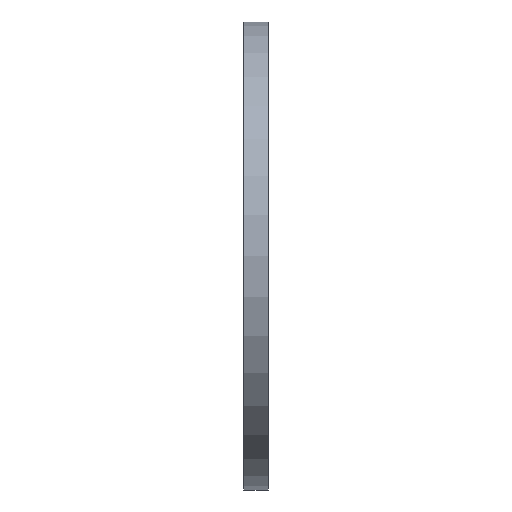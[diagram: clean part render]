
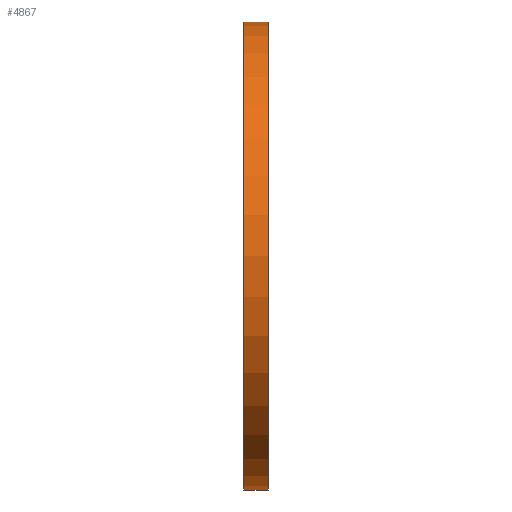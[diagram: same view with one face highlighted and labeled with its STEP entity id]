
A CAD part, left-side view. The second image highlights one B-rep face of the part: STEP entity #4867.
In plain terms, the highlighted cylindrical face has radius 114.4 mm (diameter 228.8 mm), a partial arc.
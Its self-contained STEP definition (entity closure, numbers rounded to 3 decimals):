
#744 = EDGE_CURVE ( 'NONE', #27836, #23290, #25648, .T. ) ;
#1474 = VERTEX_POINT ( 'NONE', #28947 ) ;
#4070 = CIRCLE ( 'NONE', #27026, 114.4 ) ;
#4628 = CARTESIAN_POINT ( 'NONE',  ( 0., 12., 0. ) ) ;
#4867 = ADVANCED_FACE ( 'NONE', ( #14982 ), #21432, .T. ) ;
#5109 = DIRECTION ( 'NONE',  ( 0., -1., 0. ) ) ;
#5386 = CARTESIAN_POINT ( 'NONE',  ( 0., 0., 0. ) ) ;
#6732 = DIRECTION ( 'NONE',  ( 0., -1., 0. ) ) ;
#6814 = CARTESIAN_POINT ( 'NONE',  ( 0., 12., -114.4 ) ) ;
#7298 = DIRECTION ( 'NONE',  ( 0., -1., 0. ) ) ;
#7593 = DIRECTION ( 'NONE',  ( 0., 0., -1. ) ) ;
#7628 = EDGE_LOOP ( 'NONE', ( #20357, #15282, #26963, #27538 ) ) ;
#8214 = CIRCLE ( 'NONE', #19700, 114.4 ) ;
#8457 = AXIS2_PLACEMENT_3D ( 'NONE', #5386, #21726, #14538 ) ;
#9131 = DIRECTION ( 'NONE',  ( 0., 0., -1. ) ) ;
#9466 = CARTESIAN_POINT ( 'NONE',  ( 0., 0., 114.4 ) ) ;
#11795 = CARTESIAN_POINT ( 'NONE',  ( 0., 0., 0. ) ) ;
#11824 = LINE ( 'NONE', #28131, #15474 ) ;
#13656 = VERTEX_POINT ( 'NONE', #6814 ) ;
#14505 = VECTOR ( 'NONE', #5109, 1000. ) ;
#14538 = DIRECTION ( 'NONE',  ( 0., 0., -1. ) ) ;
#14982 = FACE_OUTER_BOUND ( 'NONE', #7628, .T. ) ;
#15264 = EDGE_CURVE ( 'NONE', #13656, #1474, #11824, .T. ) ;
#15282 = ORIENTED_EDGE ( 'NONE', *, *, #18249, .T. ) ;
#15474 = VECTOR ( 'NONE', #16469, 1000. ) ;
#16469 = DIRECTION ( 'NONE',  ( 0., -1., 0. ) ) ;
#17693 = CARTESIAN_POINT ( 'NONE',  ( 0., 0., 114.4 ) ) ;
#18249 = EDGE_CURVE ( 'NONE', #27836, #13656, #8214, .T. ) ;
#19700 = AXIS2_PLACEMENT_3D ( 'NONE', #4628, #6732, #9131 ) ;
#20357 = ORIENTED_EDGE ( 'NONE', *, *, #744, .F. ) ;
#21432 = CYLINDRICAL_SURFACE ( 'NONE', #8457, 114.4 ) ;
#21726 = DIRECTION ( 'NONE',  ( 0., -1., 0. ) ) ;
#23253 = CARTESIAN_POINT ( 'NONE',  ( 0., 12., 114.4 ) ) ;
#23290 = VERTEX_POINT ( 'NONE', #17693 ) ;
#25648 = LINE ( 'NONE', #9466, #14505 ) ;
#26963 = ORIENTED_EDGE ( 'NONE', *, *, #15264, .T. ) ;
#27026 = AXIS2_PLACEMENT_3D ( 'NONE', #11795, #7298, #7593 ) ;
#27084 = EDGE_CURVE ( 'NONE', #23290, #1474, #4070, .T. ) ;
#27538 = ORIENTED_EDGE ( 'NONE', *, *, #27084, .F. ) ;
#27836 = VERTEX_POINT ( 'NONE', #23253 ) ;
#28131 = CARTESIAN_POINT ( 'NONE',  ( 0., 0., -114.4 ) ) ;
#28947 = CARTESIAN_POINT ( 'NONE',  ( 0., 0., -114.4 ) ) ;
